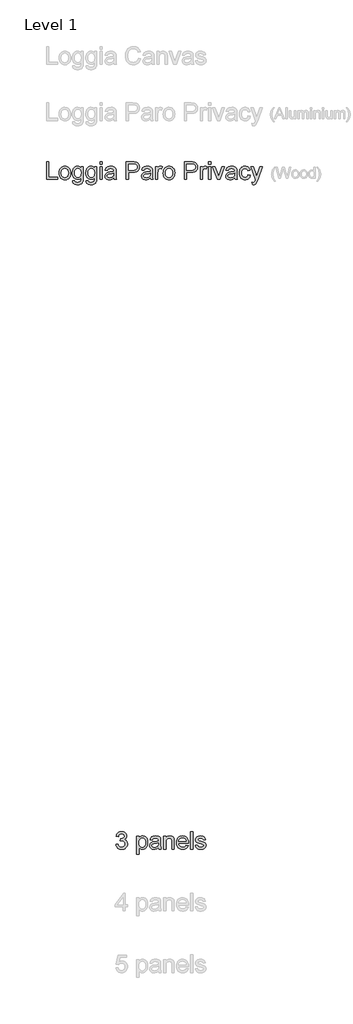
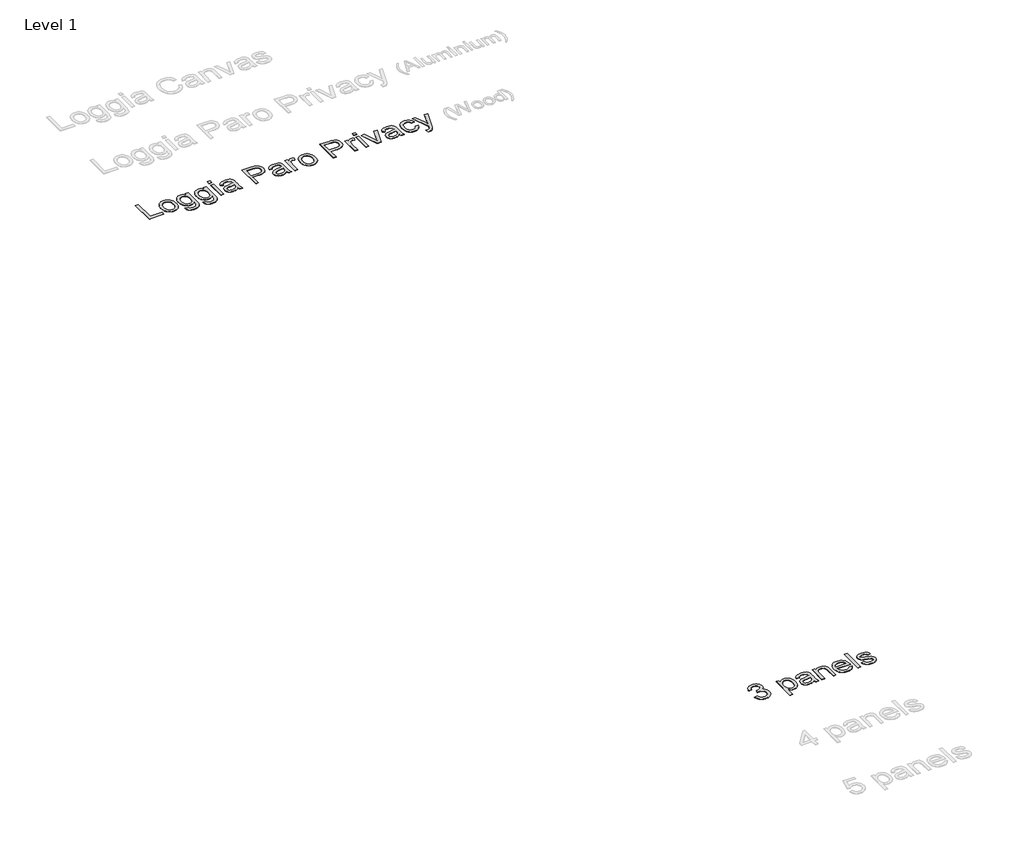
# One storey, part 8 of 80: 2 proxies.
"""IFC4 building model written with IfcOpenShell, lengths in millimetres."""

from ifc_helpers import new_model, si_unit, origin, origin_with_axes, place, context, project, spatial, polyline, outline, extrude, element, save

model = new_model("IFC4")

# Units and contexts
model_context = context("Model", 3, world=origin())
ifc_project = project(units=[si_unit("LENGTHUNIT", "METRE", prefix="MILLI")], contexts=[model_context])

# Site, building, storey
site = spatial("IfcSite", under=ifc_project)
building = spatial("IfcBuilding", under=site)
storey = spatial("IfcBuildingStorey", under=building, Name="Level 1", Elevation=0.0)

# Proxies
placement = place(None, origin())
element("IfcBuildingElementProxy", 1, Name="800mm Arial", ObjectType="800mm Arial", at=placement, inside=storey, context=model_context, shape_type="SweptSolid", body=[
    extrude(outline(polyline([(373121.9166073, -94533.8617669), (373221.8401946, -94521.3713185), (373231.7264333, -94555.3175274), (373244.2107829, -94584.1650962), (373259.2932433, -94607.914025), (373276.9738145, -94626.5643137), (373297.6550209, -94640.6526613), (373321.7393865, -94650.7157667), (373349.2269114, -94656.7536299), (373380.1175956, -94658.766251), (373416.3203796, -94655.9973723), (373448.6198986, -94647.6907362), (373477.0161524, -94633.8463427), (373501.5091411, -94614.4641918), (373521.2328277, -94590.9958102), (373535.3211752, -94564.8927247), (373543.7741838, -94536.1549351), (373546.5918533, -94504.7824417), (373543.7985792, -94474.9041669), (373535.4187569, -94447.7215846), (373521.4523863, -94423.2346947), (373501.8994676, -94401.4434974), (373478.0407595, -94383.5555652), (373451.1570209, -94370.7784707), (373421.2482519, -94363.1122141), (373388.3144523, -94360.5567952), (373356.7467956, -94363.2890808), (373318.2508433, -94371.4859375), (373329.3751489, -94271.5623502), (373345.3785359, -94272.7333298), (373376.1045511, -94270.9402674), (373405.2448648, -94265.5610801), (373432.7994771, -94256.595768), (373458.7683879, -94244.0443311), (373480.7974405, -94227.7725946), (373496.532478, -94207.6463838), (373505.9735006, -94183.6656986), (373509.1205081, -94155.8305392), (373506.8395375, -94133.2342934), (373499.9966258, -94112.6750641), (373488.591773, -94094.1528513), (373472.6249791, -94077.667655), (373453.0598627, -94064.1343029), (373430.8600422, -94054.4676229), (373406.0255179, -94048.6676148), (373378.5562895, -94046.7342788), (373351.1602474, -94048.6859114), (373326.1549552, -94054.5408091), (373303.5404128, -94064.2989719), (373283.3166204, -94077.9603999), (373265.9836837, -94095.5250929), (373252.0417085, -94116.9930511), (373241.490695, -94142.3642745), (373234.330643, -94171.6387629), (373134.4070557, -94159.1483145), (373146.2510259, -94111.443096), (373163.8279166, -94069.4220074), (373187.1377281, -94033.0850486), (373216.1804602, -94002.4322196), (373250.0412852, -93978.0978011), (373287.8053753, -93960.7160736), (373329.4727305, -93950.287037), (373375.0433509, -93946.8106915), (373407.0928169, -93948.5244689), (373437.8615241, -93953.6658009), (373467.3494723, -93962.2346876), (373495.5566618, -93974.2311291), (373521.5011772, -93989.1977113), (373544.2011034, -94006.6770204), (373563.6564405, -94026.6690565), (373579.8671885, -94049.1738195), (373592.6320853, -94073.2947783), (373601.7498687, -94098.1354015), (373607.2205387, -94123.6956892), (373609.0440954, -94149.9756415), (373607.3120215, -94174.6881888), (373602.1157998, -94198.2785475), (373593.4554303, -94220.7467173), (373581.330913, -94242.0926985), (373565.8154341, -94261.8163851), (373546.9821798, -94279.4176713), (373524.8311502, -94294.8965571), (373499.3623453, -94308.2530424), (373532.6620759, -94318.6698813), (373561.9121689, -94333.5266842), (373587.1126244, -94352.8234511), (373608.2634423, -94376.5601822), (373624.9986916, -94404.1513876), (373636.952441, -94435.0115775), (373644.1246907, -94469.140752), (373646.5154406, -94506.538911), (373641.7339408, -94557.2325668), (373627.3894415, -94603.9253759), (373603.4819426, -94646.6173383), (373570.0114441, -94685.3084539), (373529.2345212, -94717.4128096), (373483.407749, -94740.3444922), (373432.5311276, -94754.1035018), (373376.604657, -94758.6898383), (373326.0573735, -94754.7743755), (373279.998845, -94743.027987), (373238.4290714, -94723.4506728), (373201.3480527, -94696.042433), (373170.2561064, -94662.4133644), (373146.6535501, -94624.1735638), (373130.5403837, -94581.3230313), (373121.9166073, -94533.8617669)])), origin_with_axes(), (0.0, 0.0, 1.0), 5.0),
    extrude(outline(polyline([(374071.1906866, -94971.0274613), (374071.1906866, -94159.1483145), (374171.1142739, -94159.1483145), (374171.1142739, -94257.1202693), (374203.7065377, -94208.7929679), (374221.466394, -94189.8072424), (374240.2020667, -94174.2734669), (374260.4502545, -94162.1916416), (374282.7476566, -94153.5617663), (374307.0942728, -94148.3838412), (374333.4901032, -94146.6578661), (374368.3389422, -94149.0730114), (374401.0653808, -94156.3184473), (374431.6694189, -94168.3941738), (374460.1510567, -94185.3001909), (374485.8882111, -94206.5973813), (374508.2587994, -94231.8466276), (374527.2628215, -94261.0479298), (374542.9002774, -94294.201288), (374555.1101786, -94330.1723157), (374563.8315366, -94367.8266265), (374569.0643515, -94407.1642203), (374570.8086231, -94448.1850973), (374568.8386939, -94492.0419403), (374562.9289066, -94533.6422082), (374553.079261, -94572.9859009), (374539.2897571, -94610.0730185), (374521.7494595, -94643.9338435), (374500.6474324, -94673.5986585), (374475.9836758, -94699.0674635), (374447.7581899, -94720.3402584), (374417.3554138, -94737.1181996), (374386.1597871, -94749.1024433), (374354.1713096, -94756.2929895), (374321.3899813, -94758.6898383), (374297.8057216, -94757.0858403), (374275.4534299, -94752.2738462), (374254.3331062, -94744.2538562), (374234.4447506, -94733.0258701), (374199.3397598, -94703.9709403), (374171.1142739, -94668.1340873), (374171.1142739, -94971.0274613), (374071.1906866, -94971.0274613)]), holes=[polyline([(374171.1142739, -94457.3577704), (374173.8160652, -94505.5143039), (374181.9214392, -94546.9377051), (374195.4303959, -94581.6279739), (374214.3429352, -94609.5851104), (374237.1099488, -94631.1018594), (374262.1823284, -94646.4709658), (374289.560074, -94655.6924297), (374319.2431855, -94658.766251), (374349.3532167, -94655.5826504), (374377.2310681, -94646.0318485), (374402.8767398, -94630.1138454), (374426.2902317, -94607.8286411), (374445.8004585, -94578.8590952), (374459.7363347, -94542.8880675), (374468.0978605, -94499.915558), (374470.8850358, -94449.9415666), (374468.1649479, -94402.199755), (374460.0046842, -94360.8495401), (374446.4042448, -94325.8909217), (374427.3636296, -94297.3239001), (374404.5417263, -94275.1240797), (374379.5974226, -94259.2670651), (374352.5307184, -94249.7528563), (374323.3416139, -94246.5814534), (374294.2439921, -94249.9541184), (374266.8662466, -94260.0721135), (374241.2083772, -94276.9354386), (374217.270384, -94300.5440938), (374197.0770858, -94330.5809388), (374182.6533014, -94366.7288332), (374173.9990308, -94408.987777), (374171.1142739, -94457.3577704)])]), origin_with_axes(), (0.0, 0.0, 1.0), 5.0),
    extrude(outline(polyline([(375057.9361111, -94671.2566994), (375010.1942995, -94712.1921924), (374985.7927936, -94727.3539379), (374961.0375543, -94738.9783494), (374909.3436867, -94753.7619661), (374853.9905081, -94758.6898383), (374809.4993845, -94755.7257963), (374770.4850298, -94746.8336705), (374736.9474439, -94732.0134607), (374708.886627, -94711.265167), (374686.7294985, -94685.9061413), (374670.9029782, -94657.2537358), (374661.407066, -94625.3079502), (374658.2417619, -94590.0687847), (374663.0232617, -94548.6453836), (374677.3677611, -94511.0276659), (374699.4943953, -94478.8257286), (374727.6222996, -94453.6496685), (374760.6780762, -94434.621251), (374797.588327, -94420.8622414), (374884.0456496, -94405.8346707), (374986.2136144, -94390.0264469), (375057.3506213, -94371.4859375), (375057.9361111, -94349.2373263), (375056.2162349, -94325.0126871), (375051.0566063, -94304.6425222), (375042.4572253, -94288.1268316), (375030.418092, -94275.4656154), (375009.6088097, -94262.8287945), (374984.2619818, -94253.8024939), (374954.3776082, -94248.3867135), (374919.9556888, -94246.5814534), (374860.4308956, -94251.3873486), (374837.4016313, -94257.3947176), (374818.861122, -94265.8050342), (374803.6261903, -94277.2769743), (374790.513659, -94292.4692141), (374779.5235281, -94311.3817534), (374770.6557976, -94334.0145923), (374670.7322104, -94321.5241439), (374688.0773448, -94266.8784321), (374699.9518092, -94243.9467495), (374713.9608717, -94223.9425157), (374730.7083186, -94206.4632065), (374750.7979363, -94191.1062978), (374774.2297248, -94177.8717895), (374801.003684, -94166.7596815), (374862.4069236, -94151.68332), (374932.8364637, -94146.6578661), (375000.3873459, -94151.0978302), (375053.9352644, -94164.4177225), (375094.309663, -94184.4463517), (375122.3399857, -94209.0125266), (375140.9292859, -94239.3848083), (375152.980617, -94276.8317582), (375156.6399281, -94311.3756546), (375157.8596984, -94364.264897), (375157.8596984, -94488.5838914), (375159.1282596, -94596.8751033), (375162.9339431, -94662.181608), (375170.4477284, -94705.093129), (375182.8405952, -94746.1993899), (375082.9170079, -94746.1993899), (375066.9136209, -94711.4603302), (375057.9361111, -94671.2566994)]), holes=[polyline([(375057.9361111, -94471.4095248), (374990.7999509, -94488.0471924), (374896.7312613, -94502.0501561), (374844.8910213, -94509.7103139), (374810.7618468, -94518.2487064), (374788.3912586, -94529.3242212), (374771.8267772, -94544.595746), (374761.5807062, -94562.8923013), (374758.1653492, -94583.0429075), (374760.025499, -94598.5705841), (374765.6059484, -94612.7565133), (374774.9066973, -94625.6006951), (374787.9277458, -94637.1031295), (374804.5471169, -94646.5807452), (374824.6428335, -94653.3504706), (374875.2633031, -94658.766251), (374928.9331986, -94652.7893763), (374953.4261873, -94645.3182829), (374976.3578699, -94634.8587521), (375014.8050314, -94608.4385262), (375041.5423976, -94576.9928466), (375053.3985654, -94544.595746), (375057.3506213, -94499.708197), (375057.9361111, -94471.4095248)])]), origin_with_axes(), (0.0, 0.0, 1.0), 5.0),
    extrude(outline(polyline([(375295.2546309, -94746.1993899), (375295.2546309, -94159.1483145), (375395.1782182, -94159.1483145), (375395.1782182, -94241.1168822), (375411.6634145, -94218.9780503), (375429.8928825, -94199.7910627), (375449.866622, -94183.5559193), (375471.5846331, -94170.2726202), (375495.0469159, -94159.9411653), (375520.2534702, -94152.5615546), (375575.8993937, -94146.6578661), (375625.1537205, -94151.4149705), (375670.2608282, -94165.6862836), (375707.8785458, -94187.6909408), (375734.6647028, -94215.6480773), (375752.839281, -94249.4845069), (375764.6222626, -94289.1270433), (375768.5743186, -94327.0375059), (375769.8916706, -94385.7328553), (375769.8916706, -94746.1993899), (375669.9680833, -94746.1993899), (375669.9680833, -94399.1991199), (375667.0894252, -94347.5296478), (375658.4534512, -94310.7901648), (375642.5232503, -94284.4675206), (375617.7619122, -94264.0485649), (375586.0234876, -94250.9482313), (375549.1620275, -94246.5814534), (375518.82024, -94249.0331918), (375490.637446, -94256.3884071), (375464.6136456, -94268.6470991), (375440.7488386, -94285.809268), (375420.8116922, -94309.8265462), (375406.5708733, -94342.6505664), (375398.026382, -94384.2813285), (375395.1782182, -94434.7188326), (375395.1782182, -94746.1993899), (375295.2546309, -94746.1993899)])), origin_with_axes(), (0.0, 0.0, 1.0), 5.0),
    extrude(outline(polyline([(376318.3004211, -94571.3331121), (376416.2723759, -94583.8235605), (376401.250904, -94623.0635728), (376380.9722219, -94657.6440623), (376355.4363295, -94687.565029), (376324.643227, -94712.826473), (376288.9100545, -94732.8916953), (376248.5539524, -94747.223997), (376203.5749206, -94755.823378), (376153.9729592, -94758.6898383), (376091.9720322, -94753.7436695), (376036.7286329, -94738.9051632), (375988.2427614, -94714.1743193), (375946.5144176, -94679.5511378), (375912.9585352, -94635.9992374), (375888.9900478, -94584.4822365), (375874.6089554, -94525.0001353), (375869.8152579, -94457.5529336), (375874.6577462, -94387.8186626), (375889.1852111, -94326.3544345), (375913.3976526, -94273.1602494), (375929.1357395, -94249.664423), (375947.2950707, -94228.2361073), (375988.9136351, -94192.5456268), (376036.2895156, -94167.0524264), (376089.4227122, -94151.7565062), (376148.3132248, -94146.6578661), (376205.3069945, -94151.7443085), (376256.8483908, -94167.0036356), (376302.9374136, -94192.4358475), (376343.5740629, -94228.0409441), (376376.7457176, -94272.8675045), (376400.4397567, -94325.964108), (376414.6561802, -94387.3307544), (376419.394988, -94456.9674439), (376418.8094982, -94483.8999732), (375969.7388452, -94483.8999732), (375975.5266555, -94523.7742661), (375987.0351888, -94558.6962913), (376004.264445, -94588.6660488), (376027.2144242, -94613.6835388), (376054.6165652, -94633.4072254), (376085.2023067, -94647.4955729), (376118.971649, -94655.9485815), (376155.9245918, -94658.766251), (376209.1065792, -94653.5456339), (376253.8965465, -94637.8837826), (376273.1445227, -94625.89344), (376290.2944938, -94610.8048807), (376305.34646, -94592.6181048), (376318.3004211, -94571.3331121)]), holes=[polyline([(375969.7388452, -94383.9763859), (376319.4714007, -94383.9763859), (376314.3361675, -94355.7021092), (376305.9563452, -94331.1847251), (376294.3319337, -94310.4242337), (376279.4629331, -94293.420635), (376252.2132634, -94272.928493), (376221.2067011, -94258.2912488), (376186.443246, -94249.5089023), (376147.9228983, -94246.5814534), (376112.7874133, -94248.9173136), (376080.5671794, -94255.9248943), (376051.2621967, -94267.6041954), (376024.8724651, -94283.955217), (376002.7275343, -94304.2217014), (375986.1569541, -94327.6473911), (375975.1607244, -94354.2322859), (375969.7388452, -94383.9763859)])]), origin_with_axes(), (0.0, 0.0, 1.0), 5.0),
    extrude(outline(polyline([(376519.3185753, -94746.1993899), (376519.3185753, -93946.8106915), (376619.2421626, -93946.8106915), (376619.2421626, -94746.1993899), (376519.3185753, -94746.1993899)])), origin_with_axes(), (0.0, 0.0, 1.0), 5.0),
    extrude(outline(polyline([(376731.6561983, -94571.3331121), (376831.5797856, -94558.8426637), (376837.6176488, -94581.6279739), (376847.3392185, -94601.5834169), (376860.7444947, -94618.7089926), (376877.8334773, -94633.0047012), (376898.6549573, -94644.2753792), (376923.2577253, -94652.3258635), (376951.6417814, -94657.1561541), (376983.8071256, -94658.766251), (377015.9358767, -94657.2903289), (377043.6246637, -94652.8625625), (377066.8734866, -94645.4829519), (377085.6823454, -94635.151497), (377100.1976126, -94622.8318164), (377110.5656606, -94609.4875288), (377116.7864894, -94595.118634), (377118.860099, -94579.7251321), (377116.7742917, -94566.234472), (377110.5168698, -94554.2563272), (377100.0878333, -94543.7906976), (377085.4871822, -94534.8375832), (377048.0646278, -94522.1519715), (376982.636146, -94506.3437477), (376891.4461145, -94479.9723127), (376832.1652753, -94457.455352), (376794.0840449, -94432.8891771), (376778.9771891, -94417.6237511), (376766.4928395, -94400.3700995), (376749.7331949, -94361.9717288), (376744.1466467, -94319.7676746), (376748.6354016, -94281.0521636), (376762.1016663, -94245.3128923), (376783.3256704, -94213.9647942), (376811.0876436, -94188.422803), (376838.678849, -94172.3462298), (376874.6132836, -94158.8555697), (376916.1586618, -94149.707292), (376960.5826981, -94146.6578661), (377025.6208533, -94151.5613429), (377082.1694068, -94166.2717734), (377127.6424456, -94189.3498285), (377145.2559295, -94203.4869669), (377159.4540564, -94219.3561791), (377180.5316881, -94258.5108075), (377193.8027895, -94309.0336955), (377093.8792022, -94321.5241439), (377089.115999, -94304.8315866), (377081.2667768, -94290.0784642), (377070.3315355, -94277.2647766), (377056.3102753, -94266.3905239), (377039.1420076, -94257.7240556), (377018.7657439, -94251.533721), (376968.3892283, -94246.5814534), (376911.0112309, -94251.3141624), (376889.4944819, -94257.2300486), (376872.7592327, -94265.5122893), (376851.2424836, -94286.0044312), (376845.8632964, -94297.4214817), (376844.070234, -94309.6191852), (376847.0464736, -94324.9882917), (376855.9751926, -94338.6985105), (376871.2467174, -94350.9450048), (376893.2513746, -94360.7519584), (376979.3183707, -94382.0247534), (377067.6053488, -94408.1278389), (377125.9835579, -94429.0590982), (377164.7234643, -94451.5516635), (377194.0955344, -94482.3386672), (377204.8966009, -94500.8669788), (377212.6116483, -94521.5176909), (377217.2406768, -94544.2908034), (377218.7836863, -94569.1863163), (377216.9723273, -94594.1916085), (377211.5382504, -94618.4650385), (377202.4814556, -94642.0066064), (377189.8019427, -94664.8163119), (377173.7070729, -94685.9854264), (377154.4042071, -94704.6052209), (377131.8933452, -94720.6756953), (377106.1744874, -94734.1968496), (377077.9490014, -94744.9125322), (377047.9182553, -94752.5665911), (377016.0822491, -94757.1590265), (376982.4409828, -94758.6898383), (376928.6613079, -94755.737994), (376881.6879516, -94746.8824613), (376841.5209139, -94732.12324), (376808.1601948, -94711.4603302), (376780.9105251, -94684.9913136), (376759.0766358, -94652.8137717), (376742.6585268, -94614.9277045), (376731.6561983, -94571.3331121)])), origin_with_axes(), (0.0, 0.0, 1.0), 5.0),
])
element("IfcBuildingElementProxy", 2, Name="800mm Arial", ObjectType="800mm Arial", at=placement, inside=storey, context=model_context, shape_type="SweptSolid", body=[
    extrude(outline(polyline([(369965.6331768, -64342.5731794), (369965.6331768, -63543.184481), (370065.556764, -63543.184481), (370065.556764, -64242.6495921), (370465.2511132, -64242.6495921), (370465.2511132, -64342.5731794), (369965.6331768, -64342.5731794)])), origin_with_axes(), (0.0, 0.0, 1.0), 5.0),
    extrude(outline(polyline([(370540.1938037, -64049.0476417), (370545.5973864, -63973.0193556), (370552.3518647, -63938.9481202), (370561.8081343, -63907.50549), (370573.9661953, -63878.6914648), (370588.8260477, -63852.5060448), (370606.3876913, -63828.9492298), (370626.6511263, -63808.02102), (370664.7323567, -63779.5881731), (370706.7656431, -63759.2789967), (370752.7509853, -63747.0934909), (370802.6883836, -63743.0316556), (370857.8159047, -63747.9778244), (370907.6618201, -63762.8163307), (370952.22613, -63787.5471746), (370991.5088342, -63822.1703561), (371023.5704979, -63865.5148956), (371046.4716863, -63916.4098135), (371060.2123993, -63974.85511), (371064.792637, -64040.8507849), (371062.7678182, -64094.3377149), (371056.6933618, -64141.7989793), (371046.5692679, -64183.2345782), (371032.3955364, -64218.6445115), (371014.349034, -64249.2302531), (370992.6066275, -64276.1932768), (370967.1683168, -64299.5335825), (370938.0341019, -64319.2511702), (370906.3383693, -64334.9191204), (370873.2155054, -64346.1105134), (370838.6655101, -64352.8253492), (370802.6883836, -64355.0636278), (370746.7558141, -64350.1357555), (370696.4463859, -64335.3521389), (370651.760099, -64310.7127777), (370612.6969535, -64276.2176722), (370580.9768254, -64232.4523119), (370558.3195911, -64180.0021867), (370544.7252505, -64118.8672967), (370540.1938037, -64049.0476417)]), holes=[polyline([(370640.117391, -64048.8524784), (370643.0082467, -64097.3200534), (370651.6808139, -64139.2862524), (370666.1350926, -64174.7510754), (370686.3710828, -64203.7145224), (370710.9860485, -64226.2131866), (370738.5772539, -64242.283661), (370769.1446989, -64251.9259456), (370802.6883836, -64255.1400405), (370836.0613004, -64251.907649), (370866.5067684, -64242.2104747), (370894.0247876, -64226.0485176), (370918.6153579, -64203.4217775), (370938.8513481, -64174.1716845), (370953.3056267, -64138.1396682), (370961.9781939, -64095.3257289), (370964.8690497, -64045.7298663), (370961.9598974, -63998.799202), (370953.2324405, -63957.9307963), (370938.6866791, -63923.1246493), (370918.322613, -63894.380761), (370893.6405599, -63871.8820968), (370866.1408373, -63855.8116224), (370835.8234452, -63846.1693378), (370802.6883836, -63842.9552429), (370769.1446989, -63846.1571401), (370738.5772539, -63855.7628316), (370710.9860485, -63871.7723175), (370686.3710828, -63894.1855977), (370666.1350926, -63923.0636608), (370651.6808139, -63958.4674953), (370643.0082467, -64000.3971012), (370640.117391, -64048.8524784)])]), origin_with_axes(), (0.0, 0.0, 1.0), 5.0),
    extrude(outline(polyline([(371152.2257759, -64392.534973), (371252.1493631, -64405.0254214), (371256.3697686, -64421.8582523), (371263.1760871, -64436.2515424), (371272.5683189, -64448.2052919), (371284.5464637, -64457.7195006), (371303.9286146, -64467.4532681), (371326.5553547, -64474.4059591), (371381.5426022, -64479.9681119), (371412.7443278, -64478.3946081), (371440.1891607, -64473.6740969), (371463.877101, -64465.8065781), (371483.8081485, -64454.7920518), (371500.3970253, -64440.9354606), (371514.0584533, -64424.5417471), (371524.7924324, -64405.6109112), (371532.5989626, -64384.142953), (371538.014743, -64341.1582457), (371539.4296766, -64267.6304889), (371506.1787368, -64300.417916), (371469.0733227, -64323.8375067), (371428.1134342, -64337.8892612), (371383.2990715, -64342.5731794), (371328.5130861, -64337.1208059), (371280.2772675, -64320.7636854), (371258.6156707, -64308.4958451), (371238.5916157, -64293.5018181), (371203.4561307, -64255.3352037), (371175.5782793, -64209.5450247), (371155.6655283, -64159.4124632), (371143.7178776, -64104.9375192), (371139.7353274, -64046.1201928), (371141.522291, -64004.97124), (371146.8831817, -63965.4445817), (371155.8179995, -63927.540218), (371168.3267445, -63891.2581489), (371184.2203522, -63857.8059469), (371203.3097582, -63828.3911849), (371225.5949626, -63803.0138627), (371251.0759652, -63781.6739804), (371279.3441432, -63764.7679633), (371309.9908733, -63752.6922368), (371343.0161556, -63745.4468009), (371378.4199901, -63743.0316556), (371425.1493923, -63748.4962268), (371467.5608074, -63764.8899403), (371505.6542356, -63792.2127962), (371539.4296766, -63830.4647945), (371539.4296766, -63755.522104), (371639.3532639, -63755.522104), (371639.3532639, -64262.361081), (371637.6455854, -64325.8684244), (371632.5225499, -64379.3858486), (371623.9841575, -64422.9133536), (371612.030408, -64456.4509395), (371596.3746555, -64483.4993471), (371576.730254, -64507.5593173), (371553.0972034, -64528.6308501), (371525.4755038, -64546.7139456), (371494.1457023, -64561.2292128), (371459.3883461, -64571.5972608), (371421.2034352, -64577.8180896), (371379.5909696, -64579.8916992), (371330.6354865, -64576.9703492), (371286.6200733, -64568.2062992), (371247.5447301, -64553.5995492), (371213.4094567, -64533.1500993), (371185.8365479, -64506.8335539), (371166.4482982, -64474.6255177), (371155.2447075, -64436.5259908), (371152.2257759, -64392.534973)]), holes=[polyline([(371239.6589147, -64039.2894789), (371242.324113, -64088.696277), (371250.3197076, -64130.9430232), (371263.6456987, -64166.0297174), (371282.3020863, -64193.9563596), (371304.983716, -64215.2596488), (371330.3854336, -64230.4762839), (371358.5072391, -64239.606265), (371389.3491324, -64242.6495921), (371419.8860832, -64239.6245616), (371447.8737139, -64230.5494702), (371473.3120246, -64215.4243178), (371496.2010153, -64194.2491045), (371515.1135546, -64166.5969106), (371528.6225113, -64132.0408165), (371536.7278853, -64090.5808222), (371539.4296766, -64042.2169277), (371536.6486002, -63995.8717532), (371528.305371, -63955.5888373), (371514.399989, -63921.36818), (371494.9324542, -63893.2097814), (371471.5494565, -63871.2234208), (371445.897686, -63855.5188775), (371417.9771426, -63846.0961515), (371387.7878264, -63842.9552429), (371358.1047148, -63846.0473607), (371330.7269693, -63855.3237143), (371305.6545897, -63870.7843035), (371282.887576, -63892.4291284), (371263.9750367, -63920.1606074), (371250.4660801, -63953.8811588), (371242.3607061, -63993.5907826), (371239.6589147, -64039.2894789)])]), origin_with_axes(), (0.0, 0.0, 1.0), 5.0),
    extrude(outline(polyline([(371764.257748, -64392.534973), (371864.1813353, -64405.0254214), (371868.4017407, -64421.8582523), (371875.2080593, -64436.2515424), (371884.600291, -64448.2052919), (371896.5784359, -64457.7195006), (371915.9605868, -64467.4532681), (371938.5873268, -64474.4059591), (371993.5745743, -64479.9681119), (372024.7763, -64478.3946081), (372052.2211329, -64473.6740969), (372075.9090731, -64465.8065781), (372095.8401207, -64454.7920518), (372112.4289975, -64440.9354606), (372126.0904254, -64424.5417471), (372136.8244046, -64405.6109112), (372144.6309348, -64384.142953), (372150.0467152, -64341.1582457), (372151.4616488, -64267.6304889), (372118.210709, -64300.417916), (372081.1052948, -64323.8375067), (372040.1454064, -64337.8892612), (371995.3310436, -64342.5731794), (371940.5450582, -64337.1208059), (371892.3092397, -64320.7636854), (371870.6476429, -64308.4958451), (371850.6235878, -64293.5018181), (371815.4881028, -64255.3352037), (371787.6102514, -64209.5450247), (371767.6975004, -64159.4124632), (371755.7498498, -64104.9375192), (371751.7672996, -64046.1201928), (371753.5542632, -64004.97124), (371758.9151539, -63965.4445817), (371767.8499717, -63927.540218), (371780.3587167, -63891.2581489), (371796.2523244, -63857.8059469), (371815.3417304, -63828.3911849), (371837.6269347, -63803.0138627), (371863.1079374, -63781.6739804), (371891.3761153, -63764.7679633), (371922.0228454, -63752.6922368), (371955.0481277, -63745.4468009), (371990.4519622, -63743.0316556), (372037.1813644, -63748.4962268), (372079.5927796, -63764.8899403), (372117.6862077, -63792.2127962), (372151.4616488, -63830.4647945), (372151.4616488, -63755.522104), (372251.3852361, -63755.522104), (372251.3852361, -64262.361081), (372249.6775576, -64325.8684244), (372244.5545221, -64379.3858486), (372236.0161296, -64422.9133536), (372224.0623802, -64456.4509395), (372208.4066277, -64483.4993471), (372188.7622262, -64507.5593173), (372165.1291756, -64528.6308501), (372137.5074759, -64546.7139456), (372106.1776744, -64561.2292128), (372071.4203182, -64571.5972608), (372033.2354073, -64577.8180896), (371991.6229418, -64579.8916992), (371942.6674587, -64576.9703492), (371898.6520455, -64568.2062992), (371859.5767022, -64553.5995492), (371825.4414289, -64533.1500993), (371797.8685201, -64506.8335539), (371778.4802703, -64474.6255177), (371767.2766796, -64436.5259908), (371764.257748, -64392.534973)]), holes=[polyline([(371851.6908869, -64039.2894789), (371854.3560851, -64088.696277), (371862.3516798, -64130.9430232), (371875.6776709, -64166.0297174), (371894.3340584, -64193.9563596), (371917.0156881, -64215.2596488), (371942.4174057, -64230.4762839), (371970.5392112, -64239.606265), (372001.3811046, -64242.6495921), (372031.9180554, -64239.6245616), (372059.9056861, -64230.5494702), (372085.3439968, -64215.4243178), (372108.2329875, -64194.2491045), (372127.1455268, -64166.5969106), (372140.6544835, -64132.0408165), (372148.7598575, -64090.5808222), (372151.4616488, -64042.2169277), (372148.6805724, -63995.8717532), (372140.3373432, -63955.5888373), (372126.4319611, -63921.36818), (372106.9644263, -63893.2097814), (372083.5814287, -63871.2234208), (372057.9296581, -63855.5188775), (372030.0091148, -63846.0961515), (371999.8197985, -63842.9552429), (371970.136687, -63846.0473607), (371942.7589414, -63855.3237143), (371917.6865618, -63870.7843035), (371894.9195482, -63892.4291284), (371876.0070089, -63920.1606074), (371862.4980522, -63953.8811588), (371854.3926782, -63993.5907826), (371851.6908869, -64039.2894789)])]), origin_with_axes(), (0.0, 0.0, 1.0), 5.0),
    extrude(outline(polyline([(372401.270617, -64342.5731794), (372401.270617, -63755.522104), (372501.1942043, -63755.522104), (372501.1942043, -64342.5731794), (372401.270617, -64342.5731794)])), origin_with_axes(), (0.0, 0.0, 1.0), 5.0),
    extrude(outline(polyline([(372401.270617, -63643.1080683), (372401.270617, -63543.184481), (372501.1942043, -63543.184481), (372501.1942043, -63643.1080683), (372401.270617, -63643.1080683)])), origin_with_axes(), (0.0, 0.0, 1.0), 5.0),
    extrude(outline(polyline([(373025.7930376, -64267.6304889), (372978.051226, -64308.5659819), (372953.6497201, -64323.7277274), (372928.8944808, -64335.3521389), (372877.2006132, -64350.1357555), (372821.8474346, -64355.0636278), (372777.356311, -64352.0995858), (372738.3419563, -64343.2074599), (372704.8043704, -64328.3872502), (372676.7435535, -64307.6389565), (372654.586425, -64282.2799308), (372638.7599047, -64253.6275252), (372629.2639925, -64221.6817397), (372626.0986884, -64186.4425742), (372630.8801882, -64145.019173), (372645.2246876, -64107.4014554), (372667.3513218, -64075.199518), (372695.4792261, -64050.023458), (372728.5350026, -64030.9950405), (372765.4452535, -64017.2360309), (372851.9025761, -64002.2084601), (372954.0705409, -63986.4002364), (373025.2075478, -63967.859727), (373025.7930376, -63945.6111158), (373024.0731614, -63921.3864766), (373018.9135328, -63901.0163117), (373010.3141518, -63884.5006211), (372998.2750184, -63871.8394048), (372977.4657362, -63859.202584), (372952.1189083, -63850.1762834), (372922.2345347, -63844.760503), (372887.8126153, -63842.9552429), (372828.2878221, -63847.7611381), (372805.2585578, -63853.7685071), (372786.7180485, -63862.1788236), (372771.4831168, -63873.6507638), (372758.3705855, -63888.8430036), (372747.3804546, -63907.7555429), (372738.5127241, -63930.3883818), (372638.5891368, -63917.8979334), (372655.9342713, -63863.2522216), (372667.8087356, -63840.3205389), (372681.8177981, -63820.3163051), (372698.5652451, -63802.836996), (372718.6548628, -63787.4800872), (372742.0866513, -63774.2455789), (372768.8606105, -63763.133471), (372830.2638501, -63748.0571095), (372900.6933902, -63743.0316556), (372968.2442724, -63747.4716197), (373021.7921908, -63760.7915119), (373062.1665895, -63780.8201411), (373090.1969122, -63805.386316), (373108.7862124, -63835.7585978), (373120.8375435, -63873.2055476), (373124.4968545, -63907.749444), (373125.7166249, -63960.6386865), (373125.7166249, -64084.9576809), (373126.9851861, -64193.2488928), (373130.7908696, -64258.5553975), (373138.3046549, -64301.4669185), (373150.6975217, -64342.5731794), (373050.7739344, -64342.5731794), (373034.7705474, -64307.8341197), (373025.7930376, -64267.6304889)]), holes=[polyline([(373025.7930376, -64067.7833143), (372958.6568774, -64084.4209819), (372864.5881878, -64098.4239456), (372812.7479478, -64106.0841034), (372778.6187733, -64114.6224958), (372756.2481851, -64125.6980106), (372739.6837037, -64140.9695355), (372729.4376327, -64159.2660908), (372726.0222757, -64179.416697), (372727.8824255, -64194.9443736), (372733.4628749, -64209.1303028), (372742.7636238, -64221.9744846), (372755.7846723, -64233.476919), (372772.4040434, -64242.9545346), (372792.4997599, -64249.7242601), (372843.1202296, -64255.1400405), (372896.7901251, -64249.1631657), (372921.2831138, -64241.6920723), (372944.2147964, -64231.2325416), (372982.6619579, -64204.8123157), (373009.3993241, -64173.366636), (373021.2554919, -64140.9695355), (373025.2075478, -64096.0819865), (373025.7930376, -64067.7833143)])]), origin_with_axes(), (0.0, 0.0, 1.0), 5.0),
    extrude(outline(polyline([(373587.8632161, -64342.5731794), (373587.8632161, -63543.184481), (373884.1210394, -63543.184481), (373953.1112505, -63545.0873228), (374003.5609523, -63550.795848), (374056.8161259, -63565.0183703), (374100.6546724, -63588.1696116), (374119.2622691, -63603.3557525), (374135.9548264, -63621.2985744), (374163.5948226, -63665.4542612), (374174.0116614, -63690.8925719), (374181.4522606, -63717.5384552), (374187.4047399, -63774.4529399), (374183.3855966, -63823.5243012), (374171.3281666, -63868.6680019), (374151.2324501, -63909.8840421), (374123.0984469, -63947.1724218), (374105.4041532, -63963.7308044), (374084.4744187, -63978.0814026), (374060.3092433, -63990.2242164), (374032.908627, -64000.1592459), (373968.4010719, -64013.405952), (373890.9517534, -64017.8215207), (373687.7868034, -64017.8215207), (373687.7868034, -64342.5731794), (373587.8632161, -64342.5731794)]), holes=[polyline([(373687.7868034, -63917.8979334), (373896.806651, -63917.8979334), (373944.8656029, -63915.6047651), (373985.4107695, -63908.7252603), (374018.4421506, -63897.259419), (374043.9597464, -63881.2072412), (374063.0003616, -63860.9956464), (374076.600801, -63837.0515544), (374084.7610647, -63809.3749651), (374087.4811526, -63777.9658785), (374085.8771546, -63754.6438694), (374081.0651605, -63733.0783295), (374073.0451705, -63713.269259), (374061.8171844, -63695.2166578), (374047.9788897, -63679.5060156), (374032.127974, -63666.7228223), (374014.2644372, -63656.8670779), (373994.3882793, -63649.9387823), (373955.8435361, -63644.8157468), (373894.464692, -63643.1080683), (373687.7868034, -63643.1080683), (373687.7868034, -63917.8979334)])]), origin_with_axes(), (0.0, 0.0, 1.0), 5.0),
    extrude(outline(polyline([(374687.0226763, -64267.6304889), (374639.2808647, -64308.5659819), (374614.8793588, -64323.7277274), (374590.1241195, -64335.3521389), (374538.430252, -64350.1357555), (374483.0770734, -64355.0636278), (374438.5859498, -64352.0995858), (374399.571595, -64343.2074599), (374366.0340092, -64328.3872502), (374337.9731922, -64307.6389565), (374315.8160638, -64282.2799308), (374299.9895434, -64253.6275252), (374290.4936312, -64221.6817397), (374287.3283272, -64186.4425742), (374292.1098269, -64145.019173), (374306.4543263, -64107.4014554), (374328.5809605, -64075.199518), (374356.7088648, -64050.023458), (374389.7646414, -64030.9950405), (374426.6748923, -64017.2360309), (374513.1322149, -64002.2084601), (374615.3001796, -63986.4002364), (374686.4371866, -63967.859727), (374687.0226763, -63945.6111158), (374685.3028001, -63921.3864766), (374680.1431715, -63901.0163117), (374671.5437906, -63884.5006211), (374659.5046572, -63871.8394048), (374638.695375, -63859.202584), (374613.348547, -63850.1762834), (374583.4641734, -63844.760503), (374549.042254, -63842.9552429), (374489.5174608, -63847.7611381), (374466.4881966, -63853.7685071), (374447.9476872, -63862.1788236), (374432.7127555, -63873.6507638), (374419.6002242, -63888.8430036), (374408.6100933, -63907.7555429), (374399.7423629, -63930.3883818), (374299.8187756, -63917.8979334), (374317.16391, -63863.2522216), (374329.0383744, -63840.3205389), (374343.0474369, -63820.3163051), (374359.7948838, -63802.836996), (374379.8845015, -63787.4800872), (374403.31629, -63774.2455789), (374430.0902492, -63763.133471), (374491.4934888, -63748.0571095), (374561.923029, -63743.0316556), (374629.4739111, -63747.4716197), (374683.0218296, -63760.7915119), (374723.3962283, -63780.8201411), (374751.426551, -63805.386316), (374770.0158511, -63835.7585978), (374782.0671822, -63873.2055476), (374785.7264933, -63907.749444), (374786.9462636, -63960.6386865), (374786.9462636, -64084.9576809), (374788.2148248, -64193.2488928), (374792.0205083, -64258.5553975), (374799.5342937, -64301.4669185), (374811.9271605, -64342.5731794), (374712.0035732, -64342.5731794), (374696.0001861, -64307.8341197), (374687.0226763, -64267.6304889)]), holes=[polyline([(374687.0226763, -64067.7833143), (374619.8865161, -64084.4209819), (374525.8178265, -64098.4239456), (374473.9775865, -64106.0841034), (374439.8484121, -64114.6224958), (374417.4778238, -64125.6980106), (374400.9133424, -64140.9695355), (374390.6672714, -64159.2660908), (374387.2519145, -64179.416697), (374389.1120642, -64194.9443736), (374394.6925136, -64209.1303028), (374403.9932626, -64221.9744846), (374417.0143111, -64233.476919), (374433.6336821, -64242.9545346), (374453.7293987, -64249.7242601), (374504.3498683, -64255.1400405), (374558.0197638, -64249.1631657), (374582.5127525, -64241.6920723), (374605.4444351, -64231.2325416), (374643.8915967, -64204.8123157), (374670.6289628, -64173.366636), (374682.4851306, -64140.9695355), (374686.4371866, -64096.0819865), (374687.0226763, -64067.7833143)])]), origin_with_axes(), (0.0, 0.0, 1.0), 5.0),
    extrude(outline(polyline([(374924.3411962, -64342.5731794), (374924.3411962, -63755.522104), (375011.774335, -63755.522104), (375011.774335, -63842.3697531), (375044.073854, -63792.017633), (375059.2721926, -63774.5993123), (375073.8362506, -63762.352818), (375103.6962288, -63747.8619462), (375136.2884926, -63743.0316556), (375161.0742262, -63744.9588928), (375186.055123, -63750.7406042), (375211.2311831, -63760.37679), (375236.6024064, -63773.8674501), (375203.2294896, -63863.4473848), (375168.1001034, -63848.0782784), (375132.9707173, -63842.9552429), (375103.1351345, -63847.8831151), (375076.4709545, -63862.6667318), (375054.9298101, -63886.1839042), (375040.4633337, -63917.3124436), (375028.314421, -63973.1291349), (375024.2647835, -64034.0200709), (375024.2647835, -64342.5731794), (374924.3411962, -64342.5731794)])), origin_with_axes(), (0.0, 0.0, 1.0), 5.0),
    extrude(outline(polyline([(375274.0737517, -64049.0476417), (375279.4773343, -63973.0193556), (375286.2318127, -63938.9481202), (375295.6880823, -63907.50549), (375307.8461433, -63878.6914648), (375322.7059956, -63852.5060448), (375340.2676393, -63828.9492298), (375360.5310743, -63808.02102), (375398.6123047, -63779.5881731), (375440.645591, -63759.2789967), (375486.6309333, -63747.0934909), (375536.5683316, -63743.0316556), (375591.6958527, -63747.9778244), (375641.5417681, -63762.8163307), (375686.106078, -63787.5471746), (375725.3887822, -63822.1703561), (375757.4504459, -63865.5148956), (375780.3516343, -63916.4098135), (375794.0923473, -63974.85511), (375798.672585, -64040.8507849), (375796.6477662, -64094.3377149), (375790.5733098, -64141.7989793), (375780.4492159, -64183.2345782), (375766.2754844, -64218.6445115), (375748.228982, -64249.2302531), (375726.4865755, -64276.1932768), (375701.0482648, -64299.5335825), (375671.9140499, -64319.2511702), (375640.2183173, -64334.9191204), (375607.0954534, -64346.1105134), (375572.5454581, -64352.8253492), (375536.5683316, -64355.0636278), (375480.6357621, -64350.1357555), (375430.3263339, -64335.3521389), (375385.640047, -64310.7127777), (375346.5769014, -64276.2176722), (375314.8567734, -64232.4523119), (375292.1995391, -64180.0021867), (375278.6051985, -64118.8672967), (375274.0737517, -64049.0476417)]), holes=[polyline([(375373.997339, -64048.8524784), (375376.8881947, -64097.3200534), (375385.5607619, -64139.2862524), (375400.0150406, -64174.7510754), (375420.2510307, -64203.7145224), (375444.8659965, -64226.2131866), (375472.4572018, -64242.283661), (375503.0246469, -64251.9259456), (375536.5683316, -64255.1400405), (375569.9412484, -64251.907649), (375600.3867164, -64242.2104747), (375627.9047356, -64226.0485176), (375652.4953059, -64203.4217775), (375672.7312961, -64174.1716845), (375687.1855747, -64138.1396682), (375695.8581419, -64095.3257289), (375698.7489977, -64045.7298663), (375695.8398454, -63998.799202), (375687.1123885, -63957.9307963), (375672.5666271, -63923.1246493), (375652.202561, -63894.380761), (375627.5205079, -63871.8820968), (375600.0207853, -63855.8116224), (375569.7033932, -63846.1693378), (375536.5683316, -63842.9552429), (375503.0246469, -63846.1571401), (375472.4572018, -63855.7628316), (375444.8659965, -63871.7723175), (375420.2510307, -63894.1855977), (375400.0150406, -63923.0636608), (375385.5607619, -63958.4674953), (375376.8881947, -64000.3971012), (375373.997339, -64048.8524784)])]), origin_with_axes(), (0.0, 0.0, 1.0), 5.0),
    extrude(outline(polyline([(376235.8382794, -64342.5731794), (376235.8382794, -63543.184481), (376532.0961026, -63543.184481), (376601.0863138, -63545.0873228), (376651.5360156, -63550.795848), (376704.7911892, -63565.0183703), (376748.6297356, -63588.1696116), (376767.2373324, -63603.3557525), (376783.9298897, -63621.2985744), (376811.5698858, -63665.4542612), (376821.9867247, -63690.8925719), (376829.4273238, -63717.5384552), (376835.3798031, -63774.4529399), (376831.3606598, -63823.5243012), (376819.3032299, -63868.6680019), (376799.2075133, -63909.8840421), (376771.0735101, -63947.1724218), (376753.3792165, -63963.7308044), (376732.4494819, -63978.0814026), (376708.2843065, -63990.2242164), (376680.8836903, -64000.1592459), (376616.3761352, -64013.405952), (376538.9268166, -64017.8215207), (376335.7618667, -64017.8215207), (376335.7618667, -64342.5731794), (376235.8382794, -64342.5731794)]), holes=[polyline([(376335.7618667, -63917.8979334), (376544.7817143, -63917.8979334), (376592.8406662, -63915.6047651), (376633.3858327, -63908.7252603), (376666.4172139, -63897.259419), (376691.9348097, -63881.2072412), (376710.9754249, -63860.9956464), (376724.5758643, -63837.0515544), (376732.736128, -63809.3749651), (376735.4562158, -63777.9658785), (376733.8522178, -63754.6438694), (376729.0402238, -63733.0783295), (376721.0202337, -63713.269259), (376709.7922476, -63695.2166578), (376695.953953, -63679.5060156), (376680.1030372, -63666.7228223), (376662.2395004, -63656.8670779), (376642.3633425, -63649.9387823), (376603.8185994, -63644.8157468), (376542.4397552, -63643.1080683), (376335.7618667, -63643.1080683), (376335.7618667, -63917.8979334)])]), origin_with_axes(), (0.0, 0.0, 1.0), 5.0),
    extrude(outline(polyline([(376960.2842872, -64342.5731794), (376960.2842872, -63755.522104), (377047.7174261, -63755.522104), (377047.7174261, -63842.3697531), (377080.0169451, -63792.017633), (377095.2152837, -63774.5993123), (377109.7793417, -63762.352818), (377139.6393199, -63747.8619462), (377172.2315837, -63743.0316556), (377197.0173173, -63744.9588928), (377221.9982141, -63750.7406042), (377247.1742742, -63760.37679), (377272.5454975, -63773.8674501), (377239.1725807, -63863.4473848), (377204.0431945, -63848.0782784), (377168.9138084, -63842.9552429), (377139.0782255, -63847.8831151), (377112.4140456, -63862.6667318), (377090.8729012, -63886.1839042), (377076.4064248, -63917.3124436), (377064.2575121, -63973.1291349), (377060.2078745, -64034.0200709), (377060.2078745, -64342.5731794), (376960.2842872, -64342.5731794)])), origin_with_axes(), (0.0, 0.0, 1.0), 5.0),
    extrude(outline(polyline([(377334.9977396, -63643.1080683), (377334.9977396, -63543.184481), (377434.9213269, -63543.184481), (377434.9213269, -63643.1080683), (377334.9977396, -63643.1080683)])), origin_with_axes(), (0.0, 0.0, 1.0), 5.0),
    extrude(outline(polyline([(377334.9977396, -64342.5731794), (377334.9977396, -63755.522104), (377434.9213269, -63755.522104), (377434.9213269, -64342.5731794), (377334.9977396, -64342.5731794)])), origin_with_axes(), (0.0, 0.0, 1.0), 5.0),
    extrude(outline(polyline([(377728.8371911, -64342.5731794), (377522.3544658, -63755.522104), (377628.1329508, -63755.522104), (377753.2325981, -64107.2062921), (377790.8991066, -64225.4752255), (377827.7849621, -64113.8418428), (377953.6652625, -63755.522104), (378059.4437475, -63755.522104), (377855.4981445, -64342.5731794), (377728.8371911, -64342.5731794)])), origin_with_axes(), (0.0, 0.0, 1.0), 5.0),
    extrude(outline(polyline([(378521.5903387, -64267.6304889), (378473.8485271, -64308.5659819), (378449.4470212, -64323.7277274), (378424.6917819, -64335.3521389), (378372.9979143, -64350.1357555), (378317.6447357, -64355.0636278), (378273.1536121, -64352.0995858), (378234.1392574, -64343.2074599), (378200.6016715, -64328.3872502), (378172.5408546, -64307.6389565), (378150.3837261, -64282.2799308), (378134.5572058, -64253.6275252), (378125.0612936, -64221.6817397), (378121.8959895, -64186.4425742), (378126.6774893, -64145.019173), (378141.0219887, -64107.4014554), (378163.1486229, -64075.199518), (378191.2765272, -64050.023458), (378224.3323037, -64030.9950405), (378261.2425546, -64017.2360309), (378347.6998772, -64002.2084601), (378449.867842, -63986.4002364), (378521.0048489, -63967.859727), (378521.5903387, -63945.6111158), (378519.8704625, -63921.3864766), (378514.7108339, -63901.0163117), (378506.1114529, -63884.5006211), (378494.0723195, -63871.8394048), (378473.2630373, -63859.202584), (378447.9162094, -63850.1762834), (378418.0318358, -63844.760503), (378383.6099164, -63842.9552429), (378324.0851232, -63847.7611381), (378301.0558589, -63853.7685071), (378282.5153496, -63862.1788236), (378267.2804179, -63873.6507638), (378254.1678866, -63888.8430036), (378243.1777557, -63907.7555429), (378234.3100252, -63930.3883818), (378134.3864379, -63917.8979334), (378151.7315724, -63863.2522216), (378163.6060367, -63840.3205389), (378177.6150992, -63820.3163051), (378194.3625462, -63802.836996), (378214.4521639, -63787.4800872), (378237.8839524, -63774.2455789), (378264.6579116, -63763.133471), (378326.0611512, -63748.0571095), (378396.4906913, -63743.0316556), (378464.0415735, -63747.4716197), (378517.5894919, -63760.7915119), (378557.9638906, -63780.8201411), (378585.9942133, -63805.386316), (378604.5835135, -63835.7585978), (378616.6348446, -63873.2055476), (378620.2941556, -63907.749444), (378621.513926, -63960.6386865), (378621.513926, -64084.9576809), (378622.7824872, -64193.2488928), (378626.5881707, -64258.5553975), (378634.101956, -64301.4669185), (378646.4948228, -64342.5731794), (378546.5712355, -64342.5731794), (378530.5678485, -64307.8341197), (378521.5903387, -64267.6304889)]), holes=[polyline([(378521.5903387, -64067.7833143), (378454.4541785, -64084.4209819), (378360.3854889, -64098.4239456), (378308.5452489, -64106.0841034), (378274.4160744, -64114.6224958), (378252.0454862, -64125.6980106), (378235.4810048, -64140.9695355), (378225.2349338, -64159.2660908), (378221.8195768, -64179.416697), (378223.6797266, -64194.9443736), (378229.260176, -64209.1303028), (378238.5609249, -64221.9744846), (378251.5819734, -64233.476919), (378268.2013445, -64242.9545346), (378288.297061, -64249.7242601), (378338.9175307, -64255.1400405), (378392.5874262, -64249.1631657), (378417.0804149, -64241.6920723), (378440.0120975, -64231.2325416), (378478.459259, -64204.8123157), (378505.1966252, -64173.366636), (378517.052793, -64140.9695355), (378521.0048489, -64096.0819865), (378521.5903387, -64067.7833143)])]), origin_with_axes(), (0.0, 0.0, 1.0), 5.0),
    extrude(outline(polyline([(379133.6223109, -64130.2355564), (379233.5458982, -64142.7260048), (379222.6777443, -64189.8762278), (379205.6863433, -64231.5984727), (379182.5716951, -64267.8927395), (379153.3337998, -64298.7590283), (379119.2046253, -64323.3922906), (379081.4161398, -64340.9874779), (379039.9683432, -64351.5445903), (378994.8612355, -64355.0636278), (378938.8188867, -64350.1540521), (378888.570447, -64335.4253251), (378844.1159165, -64310.8774467), (378805.4552952, -64276.5104171), (378774.1620868, -64232.9707143), (378751.8097951, -64180.9048168), (378738.39842, -64120.3127245), (378733.9279617, -64051.1944375), (378735.8369023, -64005.2517872), (378741.5637241, -63962.2731788), (378751.1084271, -63922.2586124), (378764.4710113, -63885.2080879), (378781.7429595, -63851.8656653), (378803.0157545, -63822.9754045), (378828.2893962, -63798.5373055), (378857.5638846, -63778.5513683), (378889.515769, -63763.011494), (378922.8215985, -63751.9115838), (378957.4813731, -63745.2516376), (378993.4950927, -63743.0316556), (379037.8276462, -63746.0810815), (379077.9275966, -63755.2293591), (379113.7949438, -63770.4764885), (379145.4296879, -63791.8224697), (379172.2951299, -63818.7793945), (379193.8545709, -63850.8593548), (379210.1080108, -63888.0623505), (379221.0554497, -63930.3883818), (379121.1318625, -63942.8788302), (379113.331431, -63919.5385245), (379103.006075, -63899.2842378), (379090.1557943, -63882.1159701), (379074.7805891, -63868.0337213), (379057.2707856, -63857.061887), (379038.0167106, -63849.2248625), (379017.018364, -63844.5226478), (378994.2757458, -63842.9552429), (378960.323438, -63846.0412619), (378929.7011033, -63855.2993189), (378902.4087417, -63870.7294138), (378878.4463531, -63892.3315468), (378858.9361263, -63920.6058235), (378845.00025, -63956.05235), (378836.6387242, -63998.6711261), (378833.851549, -64048.4621519), (378836.5777357, -64099.0033365), (378844.7562959, -64142.1161196), (378858.3872296, -64177.8005013), (378877.4705368, -64206.0564815), (378900.9572149, -64227.5305385), (378927.7982616, -64242.8691507), (378957.9936766, -64252.072318), (378991.5434602, -64255.1400405), (379018.5796701, -64253.225001), (379043.2861185, -64247.4798827), (379065.6628057, -64237.9046854), (379085.7097314, -64224.4994092), (379102.8658014, -64207.1176817), (379116.5699213, -64185.6131304), (379126.8220911, -64159.9857553), (379133.6223109, -64130.2355564)])), origin_with_axes(), (0.0, 0.0, 1.0), 5.0),
    extrude(outline(polyline([(379320.979037, -64567.4012508), (379308.4885886, -64471.1857653), (379335.7138629, -64477.7725252), (379359.2310353, -64479.9681119), (379385.9196106, -64477.2114309), (379406.6557066, -64468.9413879), (379422.8054661, -64455.7434727), (379435.7350318, -64438.203175), (379463.0578877, -64364.6266273), (379470.864418, -64340.4263835), (379258.526795, -63755.522104), (379363.9149535, -63755.522104), (379476.5241524, -64081.4447422), (379515.751967, -64211.8137975), (379554.9797815, -64096.6674763), (379670.7115926, -63755.522104), (379775.319098, -63755.522104), (379570.9831685, -64356.6249338), (379540.6352822, -64436.5442873), (379517.8987628, -64486.9939891), (379490.7222793, -64528.6125535), (379459.9352756, -64557.4479247), (379442.846293, -64567.267076), (379424.1716089, -64574.2807556), (379382.0651363, -64579.8916992), (379353.1321835, -64576.7690871), (379320.979037, -64567.4012508)])), origin_with_axes(), (0.0, 0.0, 1.0), 5.0),
])

save(model, "model.ifc")
